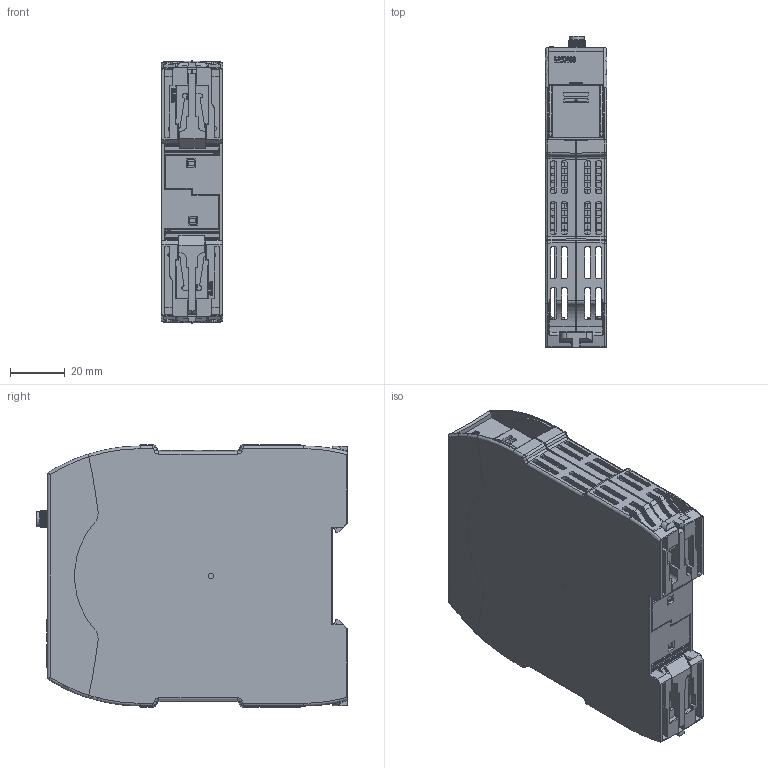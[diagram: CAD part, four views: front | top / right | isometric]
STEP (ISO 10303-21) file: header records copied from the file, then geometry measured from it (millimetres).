
FILE_DESCRIPTION(/* description */ (''),/* implementation_level */ '2;1');
FILE_NAME(/* name */ 'H:/Meeh/CAD-Backup_30092020/Rev-Pi-MBUS v4.step',/* time_stamp */ '2021-03-02T15:41:06+01:00',/* author */ (''),/* organization */ (''),/* preprocessor_version */ 'ST-DEVELOPER v18.1',/* originating_system */ 'Autodesk Translation Framework v9.7.1.1290',/* authorisation */ '');
FILE_SCHEMA (('AUTOMOTIVE_DESIGN { 1 0 10303 214 3 1 1 }'));
Products named in the file (30): Rev-Pi-MBUS; Rev-Pi-MBUS_1; Gehäuse-Pilz-22.5 v2; 2016282_ASM; 2016280_ASM; 2008350_AF4; 2016276_ASM; 2016274_ASM; 2008350_AF3; 2001992; 2025561_ASM; 2020990_AF0_ASM; 2008250_AF19; 2008248; mbus_PCB; Board; Open CASCADE STEP translator 6.8 3.1.1; X3; c-5-1814400-1-d-3d; DMC1; 6349162624; Extruded; FR1; 8476799568; Extruded (1); P1; Pilz15184; 2001601; Blende_17179; 2008358
Assembly tree (32 placements, depth 6):
  Rev-Pi-MBUS
    Rev-Pi-MBUS_1
      Gehäuse-Pilz-22.5 v2
        2016282_ASM
          2016280_ASM
            2008350_AF4
          2001992
        2016276_ASM
          2016274_ASM
            2008350_AF3
          2001992
        2025561_ASM
          2020990_AF0_ASM
            2008250_AF19
          2008248  x2
      mbus_PCB
        Board
          Open CASCADE STEP translator 6.8 3.1.1
        X3
          c-5-1814400-1-d-3d
        DMC1
          6349162624
            Extruded
        FR1
          8476799568
            Extruded (1)
        P1
          Pilz15184
            2001601
    Blende_17179  x2
      2008358
Bounding box: 22.5 x 113.95 x 96 mm (x, y, z)
Volume: 46542.9 mm3; surface area: 86634 mm2
Topology: 14 solids, 14 shells, 4239 faces, 11238 edges, 7047 vertices
Faces by surface type: plane 1948, cylinder 1598, bspline 313, sphere 222, cone 95, torus 63
Full cylindrical faces by diameter (mm): 0.71 x1, 0.8 x20, 0.95 x1, 1 x15, 1.1 x1, 1.5 x1, 1.6 x5, 2 x2, 2.2 x3, 2.5 x3, 3 x1, 4.7 x1, 5.45 x2, 6.327 x26, 6.7 x1
Entity records: 171745 total; most frequent: CARTESIAN_POINT 70104, ORIENTED_EDGE 21490, DIRECTION 20353, EDGE_CURVE 10745, AXIS2_PLACEMENT_3D 6956, VERTEX_POINT 6743, LINE 6441, VECTOR 6441
